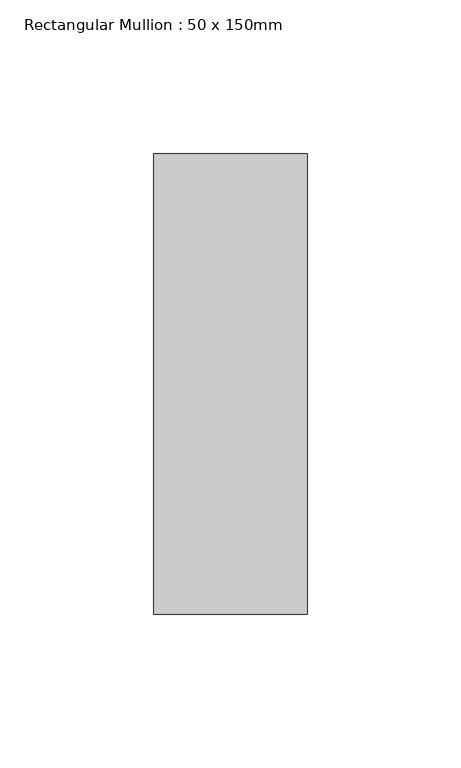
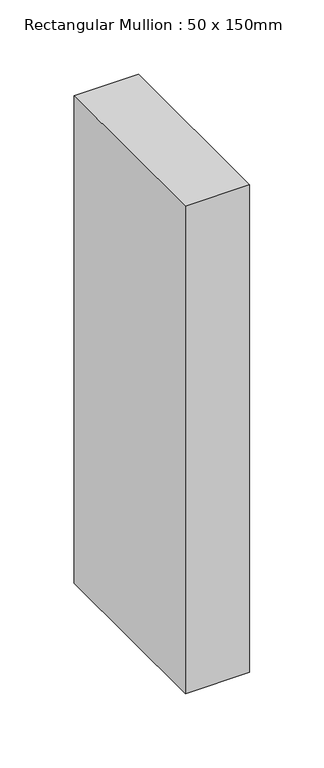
"""IFC4 building model written with IfcOpenShell, lengths in millimetres: member geometry, Rectangular Mullion : 50 x 150mm."""

import ifcopenshell
import ifcopenshell.guid

model = None  # the IFC model being written
_history = None  # IfcOwnerHistory: only IFC2X3 demands one
_inside = {}  # id of a spatial element -> (the spatial element, [elements in it])
_under = {}  # id of a project, library or spatial element -> (it, [spatial elements below it])
_declared = {}  # id of a project -> (the project, [libraries it declares])
_typed = {}  # id of a type object -> (the type object, [elements of that type])
_made_of = {}  # id of a material, layer set ... -> (it, [elements and type objects made of it])


def new_model(schema):
    """Start an empty IFC model of exactly this schema.

    Asked for "IFC4X3", IfcOpenShell would pick the latest addendum, in which some entities
    have other attributes; the version numbers below select the first issue.
    IFC2X3 requires an IfcOwnerHistory on every rooted entity: one is made here for all.
    """
    global model, _history
    if schema == "IFC4X3":
        model = ifcopenshell.file(schema_version=(4, 3, 0, 0))
    else:
        model = ifcopenshell.file(schema=schema)
    _inside.clear()
    _under.clear()
    _declared.clear()
    _typed.clear()
    _made_of.clear()
    _history = None
    if model.schema == "IFC2X3":
        org = make("IfcOrganization", Name="unknown")
        user = make(
            "IfcPersonAndOrganization",
            ThePerson=make("IfcPerson", FamilyName="unknown"),
            TheOrganization=org,
        )
        app = make(
            "IfcApplication",
            ApplicationDeveloper=org,
            Version="unknown",
            ApplicationFullName="unknown",
            ApplicationIdentifier="unknown",
        )
        _history = make(
            "IfcOwnerHistory",
            OwningUser=user,
            OwningApplication=app,
            ChangeAction="ADDED",
            CreationDate=0,
        )
    return model


def make(cls, **values):
    """One entity of the class cls with the attributes given. An attribute that is None is left unset."""
    return model.create_entity(
        cls, **{name: value for name, value in values.items() if value is not None}
    )


def rooted(cls, **values):
    """An entity with a GlobalId (a new one), such as an element, a storey or a relation."""
    return make(cls, GlobalId=ifcopenshell.guid.new(), OwnerHistory=_history, **values)


def si_unit(unit_type, name, prefix=None):
    """IfcSIUnit, for example si_unit("LENGTHUNIT", "METRE", prefix="MILLI")."""
    return make("IfcSIUnit", UnitType=unit_type, Prefix=prefix, Name=name)


def assignment(units):
    """IfcUnitAssignment: the units of a project."""
    return None if units is None else make("IfcUnitAssignment", Units=units)


def point(xyz):
    """IfcCartesianPoint."""
    return None if xyz is None else make("IfcCartesianPoint", Coordinates=xyz)


def direction(xyz):
    """IfcDirection."""
    return None if xyz is None else make("IfcDirection", DirectionRatios=xyz)


def frame(location, z_axis=None, x_axis=None):
    """IfcAxis2Placement3D, a coordinate frame: its origin and axes. An axis left out is left unset."""
    return make(
        "IfcAxis2Placement3D",
        Location=point(location),
        Axis=direction(z_axis),
        RefDirection=direction(x_axis),
    )


def origin():
    """The frame at (0, 0, 0) with its axes left unset."""
    return frame((0.0, 0.0, 0.0))


def place(relative_to, where):
    """IfcLocalPlacement: puts the frame where relative to a parent placement (None: the world)."""
    return make(
        "IfcLocalPlacement", PlacementRelTo=relative_to, RelativePlacement=where
    )


def context(
    kind, dimensions, precision=None, world=None, true_north=None, identifier=None
):
    """IfcGeometricRepresentationContext, for example the 3D "Model" context."""
    return make(
        "IfcGeometricRepresentationContext",
        ContextIdentifier=identifier,
        ContextType=kind,
        CoordinateSpaceDimension=dimensions,
        Precision=precision,
        WorldCoordinateSystem=world,
        TrueNorth=true_north,
    )


def project(units=None, contexts=None):
    """IfcProject with its units and contexts."""
    return rooted(
        "IfcProject",
        Name="project",
        RepresentationContexts=contexts,
        UnitsInContext=assignment(units),
    )


def spatial(cls, under=None, at=None, **own):
    """A site, building, storey or space (cls), placed at a placement, below another one or the project."""
    s = rooted(cls, ObjectPlacement=at, **own)
    if under is not None:
        _under.setdefault(under.id(), (under, []))[1].append(s)
    return s


def polyline(points):
    """IfcPolyline through the points."""
    return make("IfcPolyline", Points=[point(p) for p in points])


def outline(outer, holes=None, kind="AREA"):
    """IfcArbitraryClosedProfileDef: a profile drawn as a closed curve; with holes, ...WithVoids."""
    if holes is None:
        return make("IfcArbitraryClosedProfileDef", ProfileType=kind, OuterCurve=outer)
    return make(
        "IfcArbitraryProfileDefWithVoids",
        ProfileType=kind,
        OuterCurve=outer,
        InnerCurves=holes,
    )


def extrude(swept, where, along, depth):
    """IfcExtrudedAreaSolid: the profile swept, set in the frame where, extruded along a direction by depth."""
    return make(
        "IfcExtrudedAreaSolid",
        SweptArea=swept,
        Position=where,
        ExtrudedDirection=direction(along),
        Depth=depth,
    )


def shape(context_of_items, identifier, shape_type, items):
    """IfcShapeRepresentation: the items that make up one representation, for example the "Body"."""
    return make(
        "IfcShapeRepresentation",
        ContextOfItems=context_of_items,
        RepresentationIdentifier=identifier,
        RepresentationType=shape_type,
        Items=items,
    )


def source(mapping_origin, context_of_items, identifier, shape_type, items):
    """IfcRepresentationMap: a shape defined once, which mapped items show again and again."""
    return make(
        "IfcRepresentationMap",
        MappingOrigin=mapping_origin,
        MappedRepresentation=shape(context_of_items, identifier, shape_type, items),
    )


def transform(
    local_origin,
    x_axis=None,
    y_axis=None,
    z_axis=None,
    scale=None,
    scale2=None,
    scale3=None,
    uniform=True,
):
    """IfcCartesianTransformationOperator3D, or its non-uniform kind. x_axis, y_axis, z_axis: its Axis1, 2, 3."""
    if uniform:
        return make(
            "IfcCartesianTransformationOperator3D",
            Axis1=direction(x_axis),
            Axis2=direction(y_axis),
            LocalOrigin=point(local_origin),
            Scale=scale,
            Axis3=direction(z_axis),
        )
    return make(
        "IfcCartesianTransformationOperator3DnonUniform",
        Axis1=direction(x_axis),
        Axis2=direction(y_axis),
        LocalOrigin=point(local_origin),
        Scale=scale,
        Axis3=direction(z_axis),
        Scale2=scale2,
        Scale3=scale3,
    )


def mapped(mapping_source, mapping_target):
    """IfcMappedItem: shows the shape of a source again, moved by a transform."""
    return make(
        "IfcMappedItem", MappingSource=mapping_source, MappingTarget=mapping_target
    )


def made_of(thing, what):
    """Note that an element or type object is made of a material, layer set ...; save() writes the relation."""
    if what is not None:
        _made_of.setdefault(what.id(), (what, []))[1].append(thing)
    return thing


def element(
    cls,
    number,
    at=None,
    inside=None,
    cuts=None,
    type_object=None,
    material=None,
    context=None,
    identifier="Body",
    shape_type=None,
    held_by="IfcProductDefinitionShape",
    body=None,
    shapes=None,
    **own,
):
    """One element of the class cls, such as IfcWall. Its Tag is "e" and its number.

    at: its placement. inside: the storey or other place that contains it. cuts: it is an
    opening in that element (IfcRelVoidsElement). A single representation is given by context,
    identifier, shape_type and body (its items); several are given by shapes. held_by: the class
    of the entity that holds the representations. save() writes the other relations.
    """
    e = rooted(cls, Tag="e%d" % number, ObjectPlacement=at, **own)
    if body is not None:
        shapes = [shape(context, identifier, shape_type, body)]
    if shapes is not None:
        e.Representation = make(held_by, Representations=shapes)
    if inside is not None:
        _inside.setdefault(inside.id(), (inside, []))[1].append(e)
    if cuts is not None:
        rooted(
            "IfcRelVoidsElement", RelatingBuildingElement=cuts, RelatedOpeningElement=e
        )
    if type_object is not None:
        _typed.setdefault(type_object.id(), (type_object, []))[1].append(e)
    return made_of(e, material)


def aggregate(whole, parts):
    """IfcRelAggregates: a whole, such as a stair, and the parts it consists of."""
    return rooted("IfcRelAggregates", RelatingObject=whole, RelatedObjects=parts)


def save(model, path):
    """Write the relations noted so far, then the file.

    IfcRelAggregates (storeys below a building ...), IfcRelContainedInSpatialStructure (elements
    in a storey), IfcRelDefinesByType, IfcRelAssociatesMaterial and IfcRelDeclares: one each for
    every whole, place, type object, material and project.
    """
    for whole, parts in _under.values():
        aggregate(whole, parts)
    for where, things in _inside.values():
        rooted(
            "IfcRelContainedInSpatialStructure",
            RelatedElements=things,
            RelatingStructure=where,
        )
    for kind, things in _typed.values():
        rooted("IfcRelDefinesByType", RelatedObjects=things, RelatingType=kind)
    for what, things in _made_of.values():
        rooted("IfcRelAssociatesMaterial", RelatedObjects=things, RelatingMaterial=what)
    for by, libraries in _declared.values():
        rooted("IfcRelDeclares", RelatingContext=by, RelatedDefinitions=libraries)
    model.write(path)


def rectangular_mullion_50_x_150mm_a563eece(model_context):
    return source(origin(), model_context, "Body", "SweptSolid", [
        extrude(outline(polyline([(0.0, 75.0), (0.0, -75.0), (-50.0, -75.0), (-50.0, 75.0), (0.0, 75.0)])), frame((0.0, 0.0, -400.6492088), z_axis=(0.0, 0.0, 1.0), x_axis=(1.0, 0.0, 0.0)), (0.0, 0.0, 1.0), 400.6492088),
    ])


if __name__ == "__main__":
    model = new_model("IFC4")
    model_context = context("Model", 3, world=origin())
    ifc_project = project(units=[si_unit("LENGTHUNIT", "METRE", prefix="MILLI")], contexts=[model_context])
    site = spatial("IfcSite", under=ifc_project)
    building = spatial("IfcBuilding", under=site)
    placement = place(None, origin())
    rectangular_mullion_50_x_150mm_shape = rectangular_mullion_50_x_150mm_a563eece(model_context)
    element("IfcMember", 1, ObjectType="Rectangular Mullion : 50 x 150mm", at=placement, inside=building, context=model_context, shape_type="MappedRepresentation", body=[
        mapped(rectangular_mullion_50_x_150mm_shape, transform((0.0, 0.0, 0.0), x_axis=(1.0, 0.0, 0.0), y_axis=(0.0, 1.0, 0.0), z_axis=(0.0, 0.0, 1.0))),
    ])
    save(model, "model.ifc")
